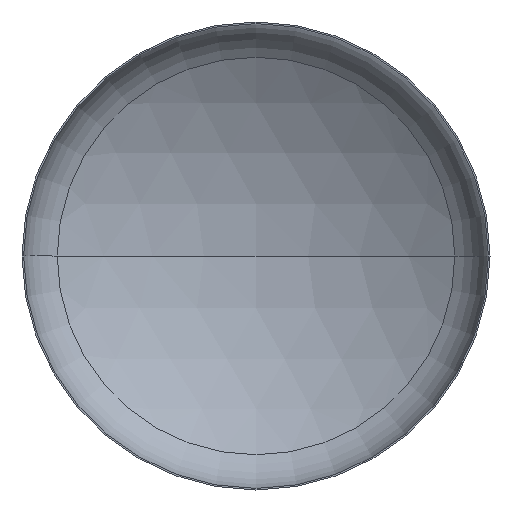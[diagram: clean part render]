
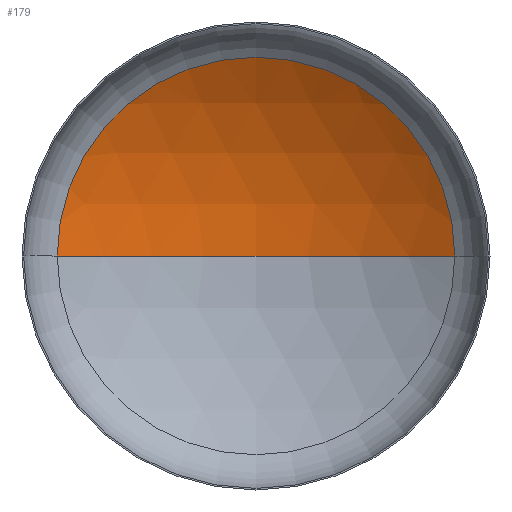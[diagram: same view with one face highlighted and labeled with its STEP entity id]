
A CAD part, front view. The second image highlights one B-rep face of the part: STEP entity #179.
In plain terms, the highlighted spherical face has radius 2400 mm.
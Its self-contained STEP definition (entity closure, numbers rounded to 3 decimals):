
#8 = VERTEX_POINT ( 'NONE', #364 ) ;
#27 = EDGE_LOOP ( 'NONE', ( #47, #164, #148 ) ) ;
#47 = ORIENTED_EDGE ( 'NONE', *, *, #352, .F. ) ;
#50 = CARTESIAN_POINT ( 'NONE',  ( 0., -1613.989, 0. ) ) ;
#72 = CARTESIAN_POINT ( 'NONE',  ( 0., -1613.989, 0. ) ) ;
#99 = DIRECTION ( 'NONE',  ( 0., 0., -1. ) ) ;
#102 = DIRECTION ( 'NONE',  ( -1., 0., 0. ) ) ;
#109 = CARTESIAN_POINT ( 'NONE',  ( 0., -1613.989, 0. ) ) ;
#136 = VERTEX_POINT ( 'NONE', #270 ) ;
#138 = VERTEX_POINT ( 'NONE', #227 ) ;
#148 = ORIENTED_EDGE ( 'NONE', *, *, #366, .T. ) ;
#155 = DIRECTION ( 'NONE',  ( 0., 0., -1. ) ) ;
#161 = AXIS2_PLACEMENT_3D ( 'NONE', #72, #99, #102 ) ;
#162 = DIRECTION ( 'NONE',  ( -1., 0., 0. ) ) ;
#164 = ORIENTED_EDGE ( 'NONE', *, *, #347, .T. ) ;
#179 = ADVANCED_FACE ( 'NONE', ( #271 ), #400, .F. ) ;
#188 = CIRCLE ( 'NONE', #161, 2400. ) ;
#190 = DIRECTION ( 'NONE',  ( 0., -1., 0. ) ) ;
#192 = DIRECTION ( 'NONE',  ( 1., 0., 0. ) ) ;
#204 = AXIS2_PLACEMENT_3D ( 'NONE', #109, #406, #218 ) ;
#218 = DIRECTION ( 'NONE',  ( 1., 0., 0. ) ) ;
#227 = CARTESIAN_POINT ( 'NONE',  ( -1274.227, 419.812, 0. ) ) ;
#235 = AXIS2_PLACEMENT_3D ( 'NONE', #343, #190, #192 ) ;
#242 = CIRCLE ( 'NONE', #235, 1274.227 ) ;
#270 = CARTESIAN_POINT ( 'NONE',  ( 0., 786.011, 0. ) ) ;
#271 = FACE_OUTER_BOUND ( 'NONE', #27, .T. ) ;
#343 = CARTESIAN_POINT ( 'NONE',  ( 0., 419.812, 0. ) ) ;
#347 = EDGE_CURVE ( 'NONE', #136, #8, #188, .T. ) ;
#352 = EDGE_CURVE ( 'NONE', #136, #138, #380, .T. ) ;
#364 = CARTESIAN_POINT ( 'NONE',  ( 1274.227, 419.812, 0. ) ) ;
#366 = EDGE_CURVE ( 'NONE', #8, #138, #242, .T. ) ;
#375 = AXIS2_PLACEMENT_3D ( 'NONE', #50, #155, #162 ) ;
#380 = CIRCLE ( 'NONE', #204, 2400. ) ;
#400 = SPHERICAL_SURFACE ( 'NONE', #375, 2400. ) ;
#406 = DIRECTION ( 'NONE',  ( 0., 0., 1. ) ) ;
